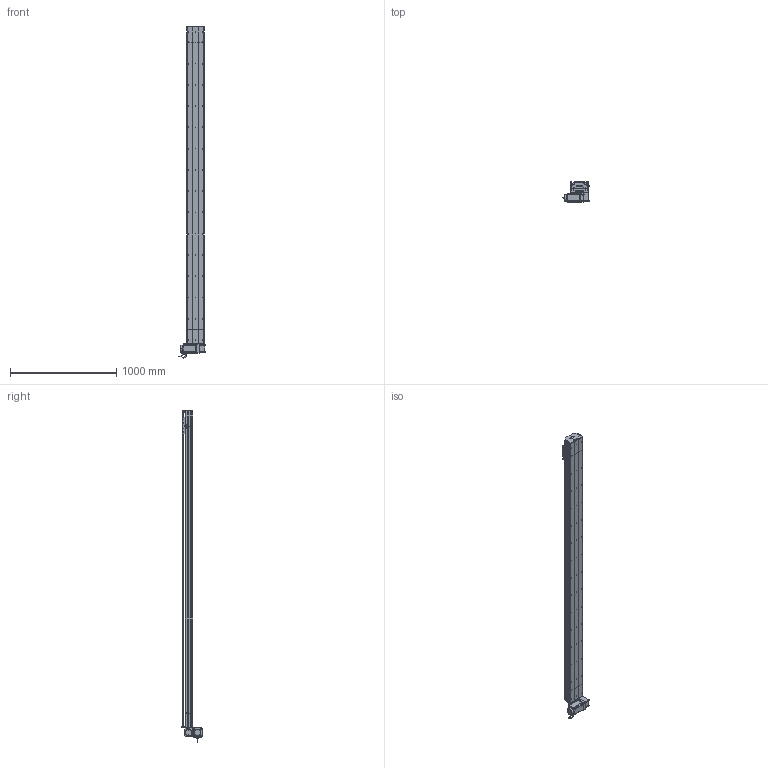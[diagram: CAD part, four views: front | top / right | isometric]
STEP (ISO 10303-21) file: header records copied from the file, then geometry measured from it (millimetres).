
FILE_DESCRIPTION (( 'STEP AP214' ), '1' );
FILE_NAME ('D17 TBH LU S2700.STEP', '2010-06-30T08:51:16', ( 'Christophe Gaillard' ), ( 'SGA' ), 'SwSTEP 2.0', 'SolidWorks 2010', '' );
FILE_SCHEMA (( 'AUTOMOTIVE_DESIGN' ));
Length unit declared in the file: millimetre
Products named in the file (40): chariot D17S_Default; vis M5 L8 90°_Default; vis M5 L16_Default; Couroie+ rail D17 Course 2700 ; corp D17B 2700_Default; poulie tail_Default; Conecteur2_Default; Couroie tail D17B_Default; Conecteur_Default; guide D17; vis M5 L70_Default; couvercle D17B_Default; corps 90BLDC125A-640; avant 90BLDC125A-640; Moteur motionking 90BLDC125A-640; Renvoi LU_Default; couroie head D17_Default; cache arbre D17_Default; poulie head_Default; vis M5 L5_Default; cache D17_Default; Arbre+rail head D17B; plaque de  bout head D17B LU_Default; Head LU D17B_Default; couvercle D17B course L2700_Default; codeur 90BLDC125-640; couvercle D17B head_Default; corpl head D17 _Default; Chariot D17; D17 TBH LU S2700; Tail D17B+100_Default; vis M5 L25_Default; corp tail D17B+100_Default; tete d''axe poulie D17B; vis M5 L12_Default; Rail D17B; Vis M5 L16-2_Default; plaque de  bout tail D17B_Default; course 2700 D17B_Default; Plaque racord D17_Default
Assembly tree (70 placements, depth 4):
  D17 TBH LU S2700
    Head LU D17B_Default
      vis M5 L5_Default  x4
      couroie head D17_Default
      vis M5 L70_Default  x4
      Vis M5 L16-2_Default  x4
      vis M5 L12_Default  x8
      Renvoi LU_Default
      couvercle D17B head_Default
      vis M5 L25_Default  x2
      cache D17_Default  x2
      poulie head_Default
      corpl head D17 _Default
      Plaque racord D17_Default
      vis M5 L16_Default  x2
      Moteur motionking 90BLDC125A-640
        Conecteur_Default
        corps 90BLDC125A-640
        avant 90BLDC125A-640
        Conecteur2_Default
        codeur 90BLDC125-640
      cache arbre D17_Default
      plaque de  bout head D17B LU_Default
      Arbre+rail head D17B
    Tail D17B+100_Default
      vis M5 L12_Default  x4
      poulie tail_Default
      corp tail D17B+100_Default
      Couroie tail D17B_Default
      Rail D17B
      vis M5 L8 90°_Default  x2
      vis M5 L25_Default  x2
      plaque de  bout tail D17B_Default
      couvercle D17B_Default
      tete d''axe poulie D17B
    chariot D17S_Default
      guide D17  x2
      vis M5 L12_Default  x4
      Chariot D17
    course 2700 D17B_Default
      couvercle D17B course L2700_Default
      Couroie+ rail D17 Course 2700 
      corp D17B 2700_Default
Bounding box: 245.2 x 188.65 x 3123.95 mm (x, y, z)
Volume: 17941127.8 mm3; surface area: 5210934.6 mm2
Topology: 94 solids, 94 shells, 2765 faces, 7059 edges, 4542 vertices
Faces by surface type: plane 1611, cylinder 841, bspline 136, cone 88, torus 85, sphere 4
Entity records: 87490 total; most frequent: CARTESIAN_POINT 25647, ORIENTED_EDGE 10890, DIRECTION 10310, EDGE_CURVE 5445, VERTEX_POINT 3566, LINE 3552, VECTOR 3552, AXIS2_PLACEMENT_3D 3379
